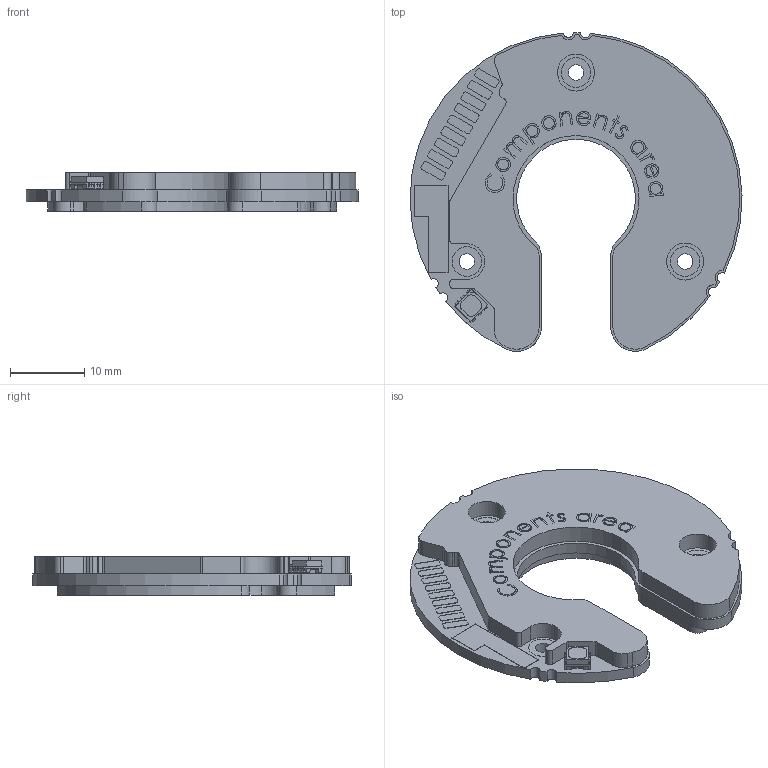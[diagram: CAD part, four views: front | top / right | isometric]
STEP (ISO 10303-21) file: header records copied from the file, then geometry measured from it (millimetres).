
FILE_DESCRIPTION (( 'STEP AP214' ), '1' );
FILE_NAME ('Orbis_BR10_BBM_brez_PVL_v01_soldering_pads.STEP', '2025-05-19T13:14:23', ( '' ), ( '' ), 'SwSTEP 2.0', 'SolidWorks 2024', '' );
FILE_SCHEMA (( 'AUTOMOTIVE_DESIGN' ));
Length unit declared in the file: millimetre
Products named in the file (1): Orbis_BR10_BBM_brez_PVL_v01_soldering_pads
Bounding box: 44.79 x 43.02 x 5.14 mm (x, y, z)
Volume: 4995.5 mm3; surface area: 3613.9 mm2
Topology: 1 solids, 1 shells, 1029 faces, 2919 edges, 1942 vertices
Faces by surface type: plane 657, bspline 249, cylinder 123
Entity records: 44813 total; most frequent: CARTESIAN_POINT 19383, ORIENTED_EDGE 5838, DIRECTION 4028, EDGE_CURVE 2919, VECTOR 1974, LINE 1974, VERTEX_POINT 1942, EDGE_LOOP 1107
